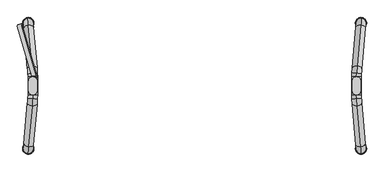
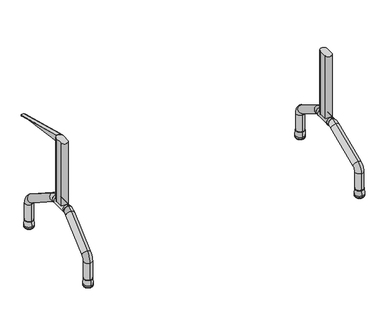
"""IFC4 building model written with IfcOpenShell, lengths in millimetres: furniture geometry, Mesa para refeitório : Mesa para refeitório 150x60cm cód 70471.4."""

from ifc_helpers import new_model, si_unit, point, frame, frame_2d, origin, place, context, project, spatial, polyline, circle_curve, ellipse_curve, trimmed, segment, composite_curve, outline, extrude, source, transform, mapped, element, save
from ifc_brep_helpers import plane_surface, cylinder_surface, revolved_surface, extruded_surface, advanced_brep


def furniture_b02cb5bb(model_context):
    return source(origin(), model_context, "Body", "SolidModel", [
        advanced_brep(
        [(-669.4401581, 37.5, 255.0), (-669.4401581, -37.5, 255.0), (-669.4401581, -37.5, 295.0), (-669.4401581, 37.5, 295.0), (-670.0583573, -51.7441422, 295.0), (-670.0583573, -51.7441422, 255.0), (-670.0583573, 51.7441422, 295.0), (-670.0583573, 51.7441422, 255.0)],
        [
            (0, 1),
            (1, 2, ellipse_curve(frame((-669.4401581, -37.5, 275.0), z_axis=(0.0, 1.0, 0.0), x_axis=(0.0, 0.0, -1.0)), 20.0, 19.923894)),
            (2, 3),
            (3, 0, ellipse_curve(frame((-669.4401581, 37.5, 275.0), z_axis=(0.0, -1.0, 0.0), x_axis=(0.0, 0.0, -1.0)), 20.0, 19.923894)),
            (2, 1, ellipse_curve(frame((-669.4401581, -37.5, 275.0), z_axis=(0.0, 1.0, 0.0), x_axis=(0.0, 0.0, -1.0)), 20.0, 19.923894)),
            (0, 3, ellipse_curve(frame((-669.4401581, 37.5, 275.0), z_axis=(0.0, -1.0, 0.0), x_axis=(0.0, 0.0, -1.0)), 20.0, 19.923894)),
            (4, 5, ellipse_curve(frame((-670.0583573, -51.7441422, 275.0), z_axis=(-0.08663729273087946, -0.9962399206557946, 0.0), x_axis=(0.0, 0.0, -1.0)), 20.0, 19.923894)),
            (5, 4, ellipse_curve(frame((-670.0583573, -51.7441422, 275.0), z_axis=(-0.08663729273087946, -0.9962399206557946, 0.0), x_axis=(0.0, 0.0, -1.0)), 20.0, 19.923894)),
            (4, 2, circle_curve(frame((-833.8513695, -37.5, 295.0), z_axis=(0.0, 0.0, 1.0), x_axis=(1.0, 0.0, 0.0)), 164.4112114)),
            (1, 5, circle_curve(frame((-833.8513695, -37.5, 255.0), z_axis=(0.0, 0.0, -1.0), x_axis=(1.0, 0.0, 0.0)), 164.4112114)),
            (6, 7, ellipse_curve(frame((-670.0583573, 51.7441422, 275.0), z_axis=(-0.08663729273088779, 0.9962399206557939, 0.0), x_axis=(0.0, 0.0, -1.0)), 20.0, 19.923894)),
            (7, 6, ellipse_curve(frame((-670.0583573, 51.7441422, 275.0), z_axis=(-0.08663729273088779, 0.9962399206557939, 0.0), x_axis=(0.0, 0.0, -1.0)), 20.0, 19.923894)),
            (3, 6, circle_curve(frame((-833.8513695, 37.5, 295.0), z_axis=(0.0, 0.0, 1.0), x_axis=(0.996239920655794, 0.08663729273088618, 0.0)), 164.4112114)),
            (7, 0, circle_curve(frame((-833.8513695, 37.5, 255.0), z_axis=(0.0, 0.0, -1.0), x_axis=(0.996239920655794, 0.08663729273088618, 0.0)), 164.4112114)),
        ],
        [
            extruded_surface(trimmed(ellipse_curve(frame((-669.4401581, 37.5, 275.0), z_axis=(0.0, -1.0, 0.0), x_axis=(0.0, 0.0, -1.0)), 20.0, 19.923894), [point((-669.4401581, 37.5, 295.0))], [point((-669.4401581, 37.5, 255.0))], True, "CARTESIAN"), (0.0, -75.0, 0.0), 75.0),
            extruded_surface(trimmed(ellipse_curve(frame((-669.4401581, 37.5, 275.0), z_axis=(0.0, -1.0, 0.0), x_axis=(0.0, 0.0, -1.0)), 20.0, 19.923894), [point((-669.4401581, 37.5, 255.0))], [point((-669.4401581, 37.5, 295.0))], True, "CARTESIAN"), (0.0, -75.0, 0.0), 75.0),
            plane_surface(frame((-670.0583573, -51.7441422, 0.0), z_axis=(-0.08663729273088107, -0.9962399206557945, 0.0), x_axis=(0.0, 0.0, 1.0))),
            revolved_surface(trimmed(ellipse_curve(frame((-669.4401581, -37.5, 275.0), z_axis=(0.0, -1.0, 0.0), x_axis=(0.0, 0.0, -1.0)), 20.0, 19.923894), [point((-669.4401581, -37.5, 295.0))], [point((-669.4401581, -37.5, 255.0))], True, "CARTESIAN"), (-833.8513695, -37.5, 0.0), (0.0, 0.0, 1.0)),
            revolved_surface(trimmed(ellipse_curve(frame((-669.4401581, -37.5, 275.0), z_axis=(0.0, -1.0, 0.0), x_axis=(0.0, 0.0, -1.0)), 20.0, 19.923894), [point((-669.4401581, -37.5, 255.0))], [point((-669.4401581, -37.5, 295.0))], True, "CARTESIAN"), (-833.8513695, -37.5, 0.0), (0.0, 0.0, 1.0)),
            plane_surface(frame((-670.0583573, 51.7441422, 0.0), z_axis=(-0.08663729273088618, 0.996239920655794, 0.0), x_axis=(0.0, 0.0, 1.0))),
            revolved_surface(trimmed(ellipse_curve(frame((-670.0583573, 51.7441422, 275.0), z_axis=(0.08663729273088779, -0.9962399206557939, 0.0), x_axis=(0.0, 0.0, -1.0)), 20.0, 19.923894), [point((-670.0583573, 51.7441422, 295.0))], [point((-670.0583573, 51.7441422, 255.0))], True, "CARTESIAN"), (-833.8513695, 37.5, 0.0), (0.0, 0.0, 1.0)),
            revolved_surface(trimmed(ellipse_curve(frame((-670.0583573, 51.7441422, 275.0), z_axis=(0.08663729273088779, -0.9962399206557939, 0.0), x_axis=(0.0, 0.0, -1.0)), 20.0, 19.923894), [point((-670.0583573, 51.7441422, 255.0))], [point((-670.0583573, 51.7441422, 295.0))], True, "CARTESIAN"), (-833.8513695, 37.5, 0.0), (0.0, 0.0, 1.0)),
        ],
        [
            (0, [[1, 2, 3, 4]]),
            (1, [[-3, 5, -1, 6]]),
            (2, [[7, 8]]),
            (3, [[-7, 9, -2, 10]]),
            (4, [[-8, -10, -5, -9]]),
            (5, [[11, 12]]),
            (6, [[-4, 13, -12, 14]]),
            (7, [[-6, -14, -11, -13]]),
        ],
    ),
        advanced_brep(
        [(-689.9590188, 279.1314153, 43.1183008), (-686.4727891, 239.2836274, 43.1183008), (-689.9590188, 279.1314153, 130.5759348), (-686.4727891, 239.2836274, 130.5759348), (-687.4872272, 250.8787073, 181.5558347), (-672.822711, 83.2625212, 285.9798998), (-670.9843424, 62.2498719, 251.9932999), (-685.6488585, 229.866058, 147.5692348), (-670.0651581, 51.7435473, 295.0), (-670.0651581, 51.7435473, 255.0)],
        [
            (0, 1, circle_curve(frame((-688.215904, 259.2075213, 43.1183008), z_axis=(0.0, 0.0, -1.0), x_axis=(0.08715574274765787, -0.9961946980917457, 0.0)), 20.0)),
            (1, 0, circle_curve(frame((-688.215904, 259.2075213, 43.1183008), z_axis=(0.0, 0.0, -1.0), x_axis=(0.08715574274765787, -0.9961946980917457, 0.0)), 20.0)),
            (0, 2),
            (2, 3, circle_curve(frame((-688.215904, 259.2075213, 130.5759348), z_axis=(0.0, 0.0, -1.0), x_axis=(0.08715574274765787, -0.9961946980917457, 0.0)), 20.0)),
            (3, 1),
            (3, 2, circle_curve(frame((-688.215904, 259.2075213, 130.5759348), z_axis=(0.0, 0.0, -1.0), x_axis=(0.08715574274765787, -0.9961946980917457, 0.0)), 20.0)),
            (4, 5),
            (5, 6, circle_curve(frame((-671.9035267, 72.7561965, 268.9865999), z_axis=(-0.07405318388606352, 0.8464317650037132, -0.5273228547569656), x_axis=(0.04595921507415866, -0.5253162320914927, -0.8496649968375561)), 20.0)),
            (6, 7),
            (7, 4, circle_curve(frame((-686.5680429, 240.3723827, 164.5625347), z_axis=(0.07405318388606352, -0.8464317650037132, 0.5273228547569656), x_axis=(0.04595921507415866, -0.5253162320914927, -0.8496649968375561)), 20.0)),
            (6, 5, circle_curve(frame((-671.9035267, 72.7561965, 268.9865999), z_axis=(-0.07405318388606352, 0.8464317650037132, -0.5273228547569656), x_axis=(0.04595921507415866, -0.5253162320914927, -0.8496649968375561)), 20.0)),
            (4, 7, circle_curve(frame((-686.5680429, 240.3723827, 164.5625347), z_axis=(0.07405318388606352, -0.8464317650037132, 0.5273228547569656), x_axis=(0.04595921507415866, -0.5253162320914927, -0.8496649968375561)), 20.0)),
            (7, 3, circle_curve(frame((-684.7296742, 219.3597334, 130.5759348), z_axis=(-0.9961946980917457, -0.08715574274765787, 0.0), x_axis=(-0.08715574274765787, 0.9961946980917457, 0.0)), 20.0)),
            (2, 4, circle_curve(frame((-684.7296742, 219.3597334, 130.5759348), z_axis=(0.9961946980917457, 0.08715574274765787, 0.0), x_axis=(-0.08715574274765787, 0.9961946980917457, 0.0)), 60.0)),
            (8, 9, circle_curve(frame((-670.0651581, 51.7435473, 275.0), z_axis=(0.08715574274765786, -0.9961946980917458, 0.0), x_axis=(0.0, 0.0, -1.0)), 20.0)),
            (9, 8, circle_curve(frame((-670.0651581, 51.7435473, 275.0), z_axis=(0.08715574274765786, -0.9961946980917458, 0.0), x_axis=(0.0, 0.0, -1.0)), 20.0)),
            (9, 6, circle_curve(frame((-670.0651581, 51.7435473, 235.0), z_axis=(-0.9961946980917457, -0.08715574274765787, 0.0), x_axis=(-0.045959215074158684, 0.5253162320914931, 0.8496649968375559)), 20.0)),
            (5, 8, circle_curve(frame((-670.0651581, 51.7435473, 235.0), z_axis=(0.9961946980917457, 0.08715574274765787, 0.0), x_axis=(-0.045959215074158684, 0.5253162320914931, 0.8496649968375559)), 60.0)),
        ],
        [
            plane_surface(frame((-0.8415623, 319.3449838, 43.1183008), z_axis=(0.0, 0.0, -1.0000000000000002), x_axis=(-0.9961946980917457, -0.08715574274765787, 0.0))),
            cylinder_surface(frame((-688.215904, 259.2075213, 43.1183008), z_axis=(0.0, 0.0, -1.0000000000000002), x_axis=(0.08715574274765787, -0.9961946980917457, 0.0)), 20.0),
            cylinder_surface(frame((-686.5680429, 240.3723827, 164.5625347), z_axis=(-0.07405318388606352, 0.8464317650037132, -0.5273228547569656), x_axis=(0.04595921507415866, -0.5253162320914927, -0.8496649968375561)), 20.0),
            revolved_surface(trimmed(ellipse_curve(frame((-688.215904, 259.2075213, 130.5759348), z_axis=(0.0, 0.0, 1.0000000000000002), x_axis=(0.08715574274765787, -0.9961946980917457, 0.0)), 20.0, 20.0), [point((-686.4727891, 239.2836274, 130.5759348))], [point((-689.9590188, 279.1314153, 130.5759348))], True, "CARTESIAN"), (2.6446674, 279.4971959, 130.5759348), (-0.9961946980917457, -0.08715574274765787, 0.0)),
            revolved_surface(trimmed(ellipse_curve(frame((-688.215904, 259.2075213, 130.5759348), z_axis=(0.0, 0.0, 1.0000000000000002), x_axis=(0.08715574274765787, -0.9961946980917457, 0.0)), 20.0, 20.0), [point((-689.9590188, 279.1314153, 130.5759348))], [point((-686.4727891, 239.2836274, 130.5759348))], True, "CARTESIAN"), (2.6446674, 279.4971959, 130.5759348), (-0.9961946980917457, -0.08715574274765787, 0.0)),
            plane_surface(frame((17.3091835, 111.8810098, 275.0), z_axis=(0.08715574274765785, -0.9961946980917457, 0.0), x_axis=(-0.9961946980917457, -0.08715574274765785, 0.0))),
            revolved_surface(trimmed(ellipse_curve(frame((-671.9035267, 72.7561965, 268.9865999), z_axis=(0.07405318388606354, -0.8464317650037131, 0.527322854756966), x_axis=(0.045959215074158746, -0.5253162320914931, -0.8496649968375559)), 20.0, 20.0), [point((-670.9843424, 62.2498719, 251.9932999))], [point((-672.822711, 83.2625212, 285.9798998))], True, "CARTESIAN"), (17.3091835, 111.8810098, 235.0), (-0.9961946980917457, -0.08715574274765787, 0.0)),
            revolved_surface(trimmed(ellipse_curve(frame((-671.9035267, 72.7561965, 268.9865999), z_axis=(0.07405318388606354, -0.8464317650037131, 0.527322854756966), x_axis=(0.045959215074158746, -0.5253162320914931, -0.8496649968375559)), 20.0, 20.0), [point((-672.822711, 83.2625212, 285.9798998))], [point((-670.9843424, 62.2498719, 251.9932999))], True, "CARTESIAN"), (17.3091835, 111.8810098, 235.0), (-0.9961946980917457, -0.08715574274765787, 0.0)),
        ],
        [
            (0, [[1, 2]]),
            (1, [[3, 4, 5, -1]]),
            (1, [[-5, 6, -3, -2]]),
            (2, [[7, 8, 9, 10]]),
            (2, [[-9, 11, -7, 12]]),
            (3, [[-10, 13, -4, 14]]),
            (4, [[-12, -14, -6, -13]]),
            (5, [[15, 16]]),
            (6, [[-16, 17, -8, 18]]),
            (7, [[-15, -18, -11, -17]]),
        ],
    ),
        advanced_brep(
        [(-686.4727891, -239.2836274, 43.1183008), (-689.9590188, -279.1314153, 43.1183008), (-689.9590188, -279.1314153, 130.5759348), (-686.4727891, -239.2836274, 130.5759348), (-687.4872272, -250.8787073, 181.5558347), (-672.822711, -83.2625212, 285.9798998), (-670.9843424, -62.2498719, 251.9932999), (-685.6488585, -229.866058, 147.5692348), (-670.0651581, -51.7435473, 255.0), (-670.0651581, -51.7435473, 295.0)],
        [
            (0, 1, circle_curve(frame((-688.215904, -259.2075213, 43.1183008), z_axis=(0.0, 0.0, -1.0), x_axis=(-0.08715574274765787, -0.9961946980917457, 0.0)), 20.0)),
            (1, 0, circle_curve(frame((-688.215904, -259.2075213, 43.1183008), z_axis=(0.0, 0.0, -1.0), x_axis=(-0.08715574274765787, -0.9961946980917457, 0.0)), 20.0)),
            (1, 2),
            (2, 3, circle_curve(frame((-688.215904, -259.2075213, 130.5759348), z_axis=(0.0, 0.0, -1.0), x_axis=(-0.08715574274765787, -0.9961946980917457, 0.0)), 20.0)),
            (3, 0),
            (3, 2, circle_curve(frame((-688.215904, -259.2075213, 130.5759348), z_axis=(0.0, 0.0, -1.0), x_axis=(-0.08715574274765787, -0.9961946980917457, 0.0)), 20.0)),
            (4, 5),
            (5, 6, circle_curve(frame((-671.9035267, -72.7561965, 268.9865999), z_axis=(-0.07405318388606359, -0.8464317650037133, -0.5273228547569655), x_axis=(-0.04595921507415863, -0.5253162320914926, 0.8496649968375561)), 20.0)),
            (6, 7),
            (7, 4, circle_curve(frame((-686.5680429, -240.3723827, 164.5625347), z_axis=(0.07405318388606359, 0.8464317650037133, 0.5273228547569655), x_axis=(-0.04595921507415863, -0.5253162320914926, 0.8496649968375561)), 20.0)),
            (6, 5, circle_curve(frame((-671.9035267, -72.7561965, 268.9865999), z_axis=(-0.07405318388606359, -0.8464317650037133, -0.5273228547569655), x_axis=(-0.04595921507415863, -0.5253162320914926, 0.8496649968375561)), 20.0)),
            (4, 7, circle_curve(frame((-686.5680429, -240.3723827, 164.5625347), z_axis=(0.07405318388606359, 0.8464317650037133, 0.5273228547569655), x_axis=(-0.04595921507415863, -0.5253162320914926, 0.8496649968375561)), 20.0)),
            (7, 3, circle_curve(frame((-684.7296742, -219.3597334, 130.5759348), z_axis=(0.9961946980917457, -0.08715574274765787, 0.0), x_axis=(-0.08715574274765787, -0.9961946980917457, 0.0)), 20.0)),
            (2, 4, circle_curve(frame((-684.7296742, -219.3597334, 130.5759348), z_axis=(-0.9961946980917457, 0.08715574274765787, 0.0), x_axis=(-0.08715574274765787, -0.9961946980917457, 0.0)), 60.0)),
            (8, 9, circle_curve(frame((-670.0651581, -51.7435473, 275.0), z_axis=(0.08715574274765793, 0.9961946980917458, 0.0), x_axis=(0.0, 0.0, 1.0)), 20.0)),
            (9, 8, circle_curve(frame((-670.0651581, -51.7435473, 275.0), z_axis=(0.08715574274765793, 0.9961946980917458, 0.0), x_axis=(0.0, 0.0, 1.0)), 20.0)),
            (8, 6, circle_curve(frame((-670.0651581, -51.7435473, 235.0), z_axis=(0.9961946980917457, -0.08715574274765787, 0.0), x_axis=(-0.045959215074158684, -0.5253162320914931, 0.8496649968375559)), 20.0)),
            (5, 9, circle_curve(frame((-670.0651581, -51.7435473, 235.0), z_axis=(-0.9961946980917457, 0.08715574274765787, 0.0), x_axis=(-0.045959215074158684, -0.5253162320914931, 0.8496649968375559)), 60.0)),
        ],
        [
            plane_surface(frame((-0.8415623, -319.3449838, 43.1183008), z_axis=(0.0, 0.0, -1.0000000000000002), x_axis=(-0.9961946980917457, 0.08715574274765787, 0.0))),
            cylinder_surface(frame((-688.215904, -259.2075213, 43.1183008), z_axis=(0.0, 0.0, -1.0000000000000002), x_axis=(-0.08715574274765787, -0.9961946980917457, 0.0)), 20.0),
            cylinder_surface(frame((-686.5680429, -240.3723827, 164.5625347), z_axis=(-0.07405318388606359, -0.8464317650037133, -0.5273228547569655), x_axis=(-0.04595921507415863, -0.5253162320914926, 0.8496649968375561)), 20.0),
            revolved_surface(trimmed(ellipse_curve(frame((-688.215904, -259.2075213, 130.5759348), z_axis=(0.0, 0.0, 1.0000000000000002), x_axis=(-0.08715574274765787, -0.9961946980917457, 0.0)), 20.0, 20.0), [point((-686.4727891, -239.2836274, 130.5759348))], [point((-689.9590188, -279.1314153, 130.5759348))], True, "CARTESIAN"), (2.6446674, -279.4971959, 130.5759348), (0.9961946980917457, -0.08715574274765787, 0.0)),
            revolved_surface(trimmed(ellipse_curve(frame((-688.215904, -259.2075213, 130.5759348), z_axis=(0.0, 0.0, 1.0000000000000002), x_axis=(-0.08715574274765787, -0.9961946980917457, 0.0)), 20.0, 20.0), [point((-689.9590188, -279.1314153, 130.5759348))], [point((-686.4727891, -239.2836274, 130.5759348))], True, "CARTESIAN"), (2.6446674, -279.4971959, 130.5759348), (0.9961946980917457, -0.08715574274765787, 0.0)),
            plane_surface(frame((17.3091835, -111.8810098, 275.0), z_axis=(0.0871557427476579, 0.9961946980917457, 0.0), x_axis=(-0.9961946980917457, 0.0871557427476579, 0.0))),
            revolved_surface(trimmed(ellipse_curve(frame((-671.9035267, -72.7561965, 268.9865999), z_axis=(0.0740531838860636, 0.8464317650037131, 0.527322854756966), x_axis=(-0.04595921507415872, -0.5253162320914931, 0.8496649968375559)), 20.0, 20.0), [point((-670.9843424, -62.2498719, 251.9932999))], [point((-672.822711, -83.2625212, 285.9798998))], True, "CARTESIAN"), (17.3091835, -111.8810098, 235.0), (0.9961946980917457, -0.08715574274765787, 0.0)),
            revolved_surface(trimmed(ellipse_curve(frame((-671.9035267, -72.7561965, 268.9865999), z_axis=(0.0740531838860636, 0.8464317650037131, 0.527322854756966), x_axis=(-0.04595921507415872, -0.5253162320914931, 0.8496649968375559)), 20.0, 20.0), [point((-672.822711, -83.2625212, 285.9798998))], [point((-670.9843424, -62.2498719, 251.9932999))], True, "CARTESIAN"), (17.3091835, -111.8810098, 235.0), (0.9961946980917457, -0.08715574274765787, 0.0)),
        ],
        [
            (0, [[1, 2]]),
            (1, [[3, 4, 5, -2]]),
            (1, [[-5, 6, -3, -1]]),
            (2, [[7, 8, 9, 10]]),
            (2, [[-9, 11, -7, 12]]),
            (3, [[-10, 13, -4, 14]]),
            (4, [[-12, -14, -6, -13]]),
            (5, [[15, 16]]),
            (6, [[-15, 17, -8, 18]]),
            (7, [[-16, -18, -11, -17]]),
        ],
    ),
        extrude(outline(composite_curve([segment(polyline([(-687.5814475, -19.3376613), (-687.5814475, 19.4032698)]), True, "CONTINUOUS"), segment(trimmed(circle_curve(frame_2d((-669.5814475, 19.4032698)), 18.0), [point((-687.5814475, 19.4032698))], [point((-651.5814475, 19.4032698))], False, "CARTESIAN"), True, "CONTINUOUS"), segment(polyline([(-651.5814475, 19.4032698), (-651.5814475, -19.3376613)]), True, "CONTINUOUS"), segment(trimmed(circle_curve(frame_2d((-669.5814475, -19.3376613)), 18.0), [point((-651.5814475, -19.3376613))], [point((-687.5814475, -19.3376613))], False, "CARTESIAN"), True, "CONTINUOUS")], self_intersect=False)), frame((0.0, 0.0, 275.0), z_axis=(0.0, 0.0, 1.0), x_axis=(1.0, 0.0, 0.0)), (0.0, 0.0, 1.0), 347.0),
        advanced_brep(
        [(669.4401581, 37.5, 255.0), (669.4401581, 37.5, 295.0), (669.4401581, -37.5, 295.0), (669.4401581, -37.5, 255.0), (670.0583573, -51.7441422, 295.0), (670.0583573, -51.7441422, 255.0), (670.0583573, 51.7441422, 295.0), (670.0583573, 51.7441422, 255.0)],
        [
            (0, 1, ellipse_curve(frame((669.4401581, 37.5, 275.0), z_axis=(0.0, -1.0, 0.0), x_axis=(0.0, 0.0, -1.0)), 20.0, 19.923894)),
            (1, 2),
            (2, 3, ellipse_curve(frame((669.4401581, -37.5, 275.0), z_axis=(0.0, 1.0, 0.0), x_axis=(0.0, 0.0, -1.0)), 20.0, 19.923894)),
            (3, 0),
            (1, 0, ellipse_curve(frame((669.4401581, 37.5, 275.0), z_axis=(0.0, -1.0, 0.0), x_axis=(0.0, 0.0, -1.0)), 20.0, 19.923894)),
            (3, 2, ellipse_curve(frame((669.4401581, -37.5, 275.0), z_axis=(0.0, 1.0, 0.0), x_axis=(0.0, 0.0, -1.0)), 20.0, 19.923894)),
            (4, 5, ellipse_curve(frame((670.0583573, -51.7441422, 275.0), z_axis=(0.08663729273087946, -0.9962399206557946, 0.0), x_axis=(0.0, 0.0, -1.0)), 20.0, 19.923894)),
            (5, 4, ellipse_curve(frame((670.0583573, -51.7441422, 275.0), z_axis=(0.08663729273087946, -0.9962399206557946, 0.0), x_axis=(0.0, 0.0, -1.0)), 20.0, 19.923894)),
            (5, 3, circle_curve(frame((833.8513695, -37.5, 255.0), z_axis=(0.0, 0.0, -1.0), x_axis=(-1.0, 0.0, 0.0)), 164.4112114)),
            (2, 4, circle_curve(frame((833.8513695, -37.5, 295.0), z_axis=(0.0, 0.0, 1.0), x_axis=(-1.0, 0.0, 0.0)), 164.4112114)),
            (6, 7, ellipse_curve(frame((670.0583573, 51.7441422, 275.0), z_axis=(0.08663729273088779, 0.9962399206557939, 0.0), x_axis=(0.0, 0.0, -1.0)), 20.0, 19.923894)),
            (7, 6, ellipse_curve(frame((670.0583573, 51.7441422, 275.0), z_axis=(0.08663729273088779, 0.9962399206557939, 0.0), x_axis=(0.0, 0.0, -1.0)), 20.0, 19.923894)),
            (0, 7, circle_curve(frame((833.8513695, 37.5, 255.0), z_axis=(0.0, 0.0, -1.0), x_axis=(-0.996239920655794, 0.08663729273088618, 0.0)), 164.4112114)),
            (6, 1, circle_curve(frame((833.8513695, 37.5, 295.0), z_axis=(0.0, 0.0, 1.0), x_axis=(-0.996239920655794, 0.08663729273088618, 0.0)), 164.4112114)),
        ],
        [
            extruded_surface(trimmed(ellipse_curve(frame((669.4401581, -37.5, 275.0), z_axis=(0.0, 1.0, 0.0), x_axis=(0.0, 0.0, -1.0)), 20.0, 19.923894), [point((669.4401581, -37.5, 295.0))], [point((669.4401581, -37.5, 255.0))], True, "CARTESIAN"), (0.0, 75.0, 0.0), 75.0),
            extruded_surface(trimmed(ellipse_curve(frame((669.4401581, -37.5, 275.0), z_axis=(0.0, 1.0, 0.0), x_axis=(0.0, 0.0, -1.0)), 20.0, 19.923894), [point((669.4401581, -37.5, 255.0))], [point((669.4401581, -37.5, 295.0))], True, "CARTESIAN"), (0.0, 75.0, 0.0), 75.0),
            plane_surface(frame((670.0583573, -51.7441422, 0.0), z_axis=(0.08663729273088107, -0.9962399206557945, 0.0), x_axis=(0.0, 0.0, 1.0))),
            revolved_surface(trimmed(ellipse_curve(frame((669.4401581, -37.5, 275.0), z_axis=(0.0, 1.0, 0.0), x_axis=(0.0, 0.0, -1.0)), 20.0, 19.923894), [point((669.4401581, -37.5, 295.0))], [point((669.4401581, -37.5, 255.0))], True, "CARTESIAN"), (833.8513695, -37.5, 0.0), (0.0, 0.0, 1.0)),
            revolved_surface(trimmed(ellipse_curve(frame((669.4401581, -37.5, 275.0), z_axis=(0.0, 1.0, 0.0), x_axis=(0.0, 0.0, -1.0)), 20.0, 19.923894), [point((669.4401581, -37.5, 255.0))], [point((669.4401581, -37.5, 295.0))], True, "CARTESIAN"), (833.8513695, -37.5, 0.0), (0.0, 0.0, 1.0)),
            plane_surface(frame((670.0583573, 51.7441422, 0.0), z_axis=(0.08663729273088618, 0.996239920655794, 0.0), x_axis=(0.0, 0.0, 1.0))),
            revolved_surface(trimmed(ellipse_curve(frame((670.0583573, 51.7441422, 275.0), z_axis=(0.08663729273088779, 0.9962399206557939, 0.0), x_axis=(0.0, 0.0, -1.0)), 20.0, 19.923894), [point((670.0583573, 51.7441422, 295.0))], [point((670.0583573, 51.7441422, 255.0))], True, "CARTESIAN"), (833.8513695, 37.5, 0.0), (0.0, 0.0, 1.0)),
            revolved_surface(trimmed(ellipse_curve(frame((670.0583573, 51.7441422, 275.0), z_axis=(0.08663729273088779, 0.9962399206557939, 0.0), x_axis=(0.0, 0.0, -1.0)), 20.0, 19.923894), [point((670.0583573, 51.7441422, 255.0))], [point((670.0583573, 51.7441422, 295.0))], True, "CARTESIAN"), (833.8513695, 37.5, 0.0), (0.0, 0.0, 1.0)),
        ],
        [
            (0, [[1, 2, 3, 4]]),
            (1, [[5, -4, 6, -2]]),
            (2, [[7, 8]]),
            (3, [[9, -3, 10, -8]]),
            (4, [[-10, -6, -9, -7]]),
            (5, [[11, 12]]),
            (6, [[13, -11, 14, -1]]),
            (7, [[-14, -12, -13, -5]]),
        ],
    ),
        advanced_brep(
        [(689.9590188, 279.1314153, 43.1183008), (686.4727891, 239.2836274, 43.1183008), (686.4727891, 239.2836274, 130.5759348), (689.9590188, 279.1314153, 130.5759348), (687.4872272, 250.8787073, 181.5558347), (685.6488585, 229.866058, 147.5692348), (670.9843424, 62.2498719, 251.9932999), (672.822711, 83.2625212, 285.9798998), (670.0651581, 51.7435473, 295.0), (670.0651581, 51.7435473, 255.0)],
        [
            (0, 1, circle_curve(frame((688.215904, 259.2075213, 43.1183008), z_axis=(0.0, 0.0, -1.0), x_axis=(-0.08715574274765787, -0.9961946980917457, 0.0)), 20.0)),
            (1, 0, circle_curve(frame((688.215904, 259.2075213, 43.1183008), z_axis=(0.0, 0.0, -1.0), x_axis=(-0.08715574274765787, -0.9961946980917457, 0.0)), 20.0)),
            (1, 2),
            (2, 3, circle_curve(frame((688.215904, 259.2075213, 130.5759348), z_axis=(0.0, 0.0, -1.0), x_axis=(-0.08715574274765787, -0.9961946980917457, 0.0)), 20.0)),
            (3, 0),
            (3, 2, circle_curve(frame((688.215904, 259.2075213, 130.5759348), z_axis=(0.0, 0.0, -1.0), x_axis=(-0.08715574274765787, -0.9961946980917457, 0.0)), 20.0)),
            (4, 5, circle_curve(frame((686.5680429, 240.3723827, 164.5625347), z_axis=(-0.07405318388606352, -0.8464317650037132, 0.5273228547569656), x_axis=(-0.04595921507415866, -0.5253162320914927, -0.8496649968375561)), 20.0)),
            (5, 6),
            (6, 7, circle_curve(frame((671.9035267, 72.7561965, 268.9865999), z_axis=(0.07405318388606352, 0.8464317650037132, -0.5273228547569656), x_axis=(-0.04595921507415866, -0.5253162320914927, -0.8496649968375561)), 20.0)),
            (7, 4),
            (5, 4, circle_curve(frame((686.5680429, 240.3723827, 164.5625347), z_axis=(-0.07405318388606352, -0.8464317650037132, 0.5273228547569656), x_axis=(-0.04595921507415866, -0.5253162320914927, -0.8496649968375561)), 20.0)),
            (7, 6, circle_curve(frame((671.9035267, 72.7561965, 268.9865999), z_axis=(0.07405318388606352, 0.8464317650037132, -0.5273228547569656), x_axis=(-0.04595921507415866, -0.5253162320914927, -0.8496649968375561)), 20.0)),
            (4, 3, circle_curve(frame((684.7296742, 219.3597334, 130.5759348), z_axis=(-0.9961946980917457, 0.08715574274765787, 0.0), x_axis=(0.08715574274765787, 0.9961946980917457, 0.0)), 60.0)),
            (2, 5, circle_curve(frame((684.7296742, 219.3597334, 130.5759348), z_axis=(0.9961946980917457, -0.08715574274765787, 0.0), x_axis=(0.08715574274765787, 0.9961946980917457, 0.0)), 20.0)),
            (8, 9, circle_curve(frame((670.0651581, 51.7435473, 275.0), z_axis=(-0.08715574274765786, -0.9961946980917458, 0.0), x_axis=(0.0, 0.0, -1.0)), 20.0)),
            (9, 8, circle_curve(frame((670.0651581, 51.7435473, 275.0), z_axis=(-0.08715574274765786, -0.9961946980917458, 0.0), x_axis=(0.0, 0.0, -1.0)), 20.0)),
            (8, 7, circle_curve(frame((670.0651581, 51.7435473, 235.0), z_axis=(-0.9961946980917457, 0.08715574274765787, 0.0), x_axis=(0.045959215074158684, 0.5253162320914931, 0.8496649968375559)), 60.0)),
            (6, 9, circle_curve(frame((670.0651581, 51.7435473, 235.0), z_axis=(0.9961946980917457, -0.08715574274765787, 0.0), x_axis=(0.045959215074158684, 0.5253162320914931, 0.8496649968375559)), 20.0)),
        ],
        [
            plane_surface(frame((0.8415623, 319.3449838, 43.1183008), z_axis=(0.0, 0.0, -1.0000000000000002), x_axis=(0.9961946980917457, -0.08715574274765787, 0.0))),
            cylinder_surface(frame((688.215904, 259.2075213, 43.1183008), z_axis=(0.0, 0.0, -1.0000000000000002), x_axis=(-0.08715574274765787, -0.9961946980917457, 0.0)), 20.0),
            cylinder_surface(frame((686.5680429, 240.3723827, 164.5625347), z_axis=(0.07405318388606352, 0.8464317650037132, -0.5273228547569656), x_axis=(-0.04595921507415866, -0.5253162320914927, -0.8496649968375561)), 20.0),
            revolved_surface(trimmed(ellipse_curve(frame((688.215904, 259.2075213, 130.5759348), z_axis=(0.0, 0.0, -1.0000000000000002), x_axis=(-0.08715574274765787, -0.9961946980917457, 0.0)), 20.0, 20.0), [point((686.4727891, 239.2836274, 130.5759348))], [point((689.9590188, 279.1314153, 130.5759348))], True, "CARTESIAN"), (-2.6446674, 279.4971959, 130.5759348), (0.9961946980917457, -0.08715574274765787, 0.0)),
            revolved_surface(trimmed(ellipse_curve(frame((688.215904, 259.2075213, 130.5759348), z_axis=(0.0, 0.0, -1.0000000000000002), x_axis=(-0.08715574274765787, -0.9961946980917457, 0.0)), 20.0, 20.0), [point((689.9590188, 279.1314153, 130.5759348))], [point((686.4727891, 239.2836274, 130.5759348))], True, "CARTESIAN"), (-2.6446674, 279.4971959, 130.5759348), (0.9961946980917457, -0.08715574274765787, 0.0)),
            plane_surface(frame((-17.3091835, 111.8810098, 275.0), z_axis=(-0.08715574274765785, -0.9961946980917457, 0.0), x_axis=(0.9961946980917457, -0.08715574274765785, 0.0))),
            revolved_surface(trimmed(ellipse_curve(frame((671.9035267, 72.7561965, 268.9865999), z_axis=(0.07405318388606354, 0.8464317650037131, -0.527322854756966), x_axis=(-0.045959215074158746, -0.5253162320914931, -0.8496649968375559)), 20.0, 20.0), [point((670.9843424, 62.2498719, 251.9932999))], [point((672.822711, 83.2625212, 285.9798998))], True, "CARTESIAN"), (-17.3091835, 111.8810098, 235.0), (0.9961946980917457, -0.08715574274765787, 0.0)),
            revolved_surface(trimmed(ellipse_curve(frame((671.9035267, 72.7561965, 268.9865999), z_axis=(0.07405318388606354, 0.8464317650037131, -0.527322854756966), x_axis=(-0.045959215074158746, -0.5253162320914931, -0.8496649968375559)), 20.0, 20.0), [point((672.822711, 83.2625212, 285.9798998))], [point((670.9843424, 62.2498719, 251.9932999))], True, "CARTESIAN"), (-17.3091835, 111.8810098, 235.0), (0.9961946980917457, -0.08715574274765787, 0.0)),
        ],
        [
            (0, [[1, 2]]),
            (1, [[-2, 3, 4, 5]]),
            (1, [[-1, -5, 6, -3]]),
            (2, [[7, 8, 9, 10]]),
            (2, [[11, -10, 12, -8]]),
            (3, [[13, -4, 14, -7]]),
            (4, [[-14, -6, -13, -11]]),
            (5, [[15, 16]]),
            (6, [[17, -9, 18, -15]]),
            (7, [[-18, -12, -17, -16]]),
        ],
    ),
        advanced_brep(
        [(686.4727891, -239.2836274, 43.1183008), (689.9590188, -279.1314153, 43.1183008), (686.4727891, -239.2836274, 130.5759348), (689.9590188, -279.1314153, 130.5759348), (687.4872272, -250.8787073, 181.5558347), (685.6488585, -229.866058, 147.5692348), (670.9843424, -62.2498719, 251.9932999), (672.822711, -83.2625212, 285.9798998), (670.0651581, -51.7435473, 255.0), (670.0651581, -51.7435473, 295.0)],
        [
            (0, 1, circle_curve(frame((688.215904, -259.2075213, 43.1183008), z_axis=(0.0, 0.0, -1.0), x_axis=(0.08715574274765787, -0.9961946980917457, 0.0)), 20.0)),
            (1, 0, circle_curve(frame((688.215904, -259.2075213, 43.1183008), z_axis=(0.0, 0.0, -1.0), x_axis=(0.08715574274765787, -0.9961946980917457, 0.0)), 20.0)),
            (0, 2),
            (2, 3, circle_curve(frame((688.215904, -259.2075213, 130.5759348), z_axis=(0.0, 0.0, -1.0), x_axis=(0.08715574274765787, -0.9961946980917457, 0.0)), 20.0)),
            (3, 1),
            (3, 2, circle_curve(frame((688.215904, -259.2075213, 130.5759348), z_axis=(0.0, 0.0, -1.0), x_axis=(0.08715574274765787, -0.9961946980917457, 0.0)), 20.0)),
            (4, 5, circle_curve(frame((686.5680429, -240.3723827, 164.5625347), z_axis=(-0.07405318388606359, 0.8464317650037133, 0.5273228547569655), x_axis=(0.04595921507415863, -0.5253162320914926, 0.8496649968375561)), 20.0)),
            (5, 6),
            (6, 7, circle_curve(frame((671.9035267, -72.7561965, 268.9865999), z_axis=(0.07405318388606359, -0.8464317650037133, -0.5273228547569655), x_axis=(0.04595921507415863, -0.5253162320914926, 0.8496649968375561)), 20.0)),
            (7, 4),
            (5, 4, circle_curve(frame((686.5680429, -240.3723827, 164.5625347), z_axis=(-0.07405318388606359, 0.8464317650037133, 0.5273228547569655), x_axis=(0.04595921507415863, -0.5253162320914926, 0.8496649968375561)), 20.0)),
            (7, 6, circle_curve(frame((671.9035267, -72.7561965, 268.9865999), z_axis=(0.07405318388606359, -0.8464317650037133, -0.5273228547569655), x_axis=(0.04595921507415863, -0.5253162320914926, 0.8496649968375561)), 20.0)),
            (4, 3, circle_curve(frame((684.7296742, -219.3597334, 130.5759348), z_axis=(0.9961946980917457, 0.08715574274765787, 0.0), x_axis=(0.08715574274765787, -0.9961946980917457, 0.0)), 60.0)),
            (2, 5, circle_curve(frame((684.7296742, -219.3597334, 130.5759348), z_axis=(-0.9961946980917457, -0.08715574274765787, 0.0), x_axis=(0.08715574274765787, -0.9961946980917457, 0.0)), 20.0)),
            (8, 9, circle_curve(frame((670.0651581, -51.7435473, 275.0), z_axis=(-0.08715574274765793, 0.9961946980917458, 0.0), x_axis=(0.0, 0.0, 1.0)), 20.0)),
            (9, 8, circle_curve(frame((670.0651581, -51.7435473, 275.0), z_axis=(-0.08715574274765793, 0.9961946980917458, 0.0), x_axis=(0.0, 0.0, 1.0)), 20.0)),
            (9, 7, circle_curve(frame((670.0651581, -51.7435473, 235.0), z_axis=(0.9961946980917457, 0.08715574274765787, 0.0), x_axis=(0.045959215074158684, -0.5253162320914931, 0.8496649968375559)), 60.0)),
            (6, 8, circle_curve(frame((670.0651581, -51.7435473, 235.0), z_axis=(-0.9961946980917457, -0.08715574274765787, 0.0), x_axis=(0.045959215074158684, -0.5253162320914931, 0.8496649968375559)), 20.0)),
        ],
        [
            plane_surface(frame((0.8415623, -319.3449838, 43.1183008), z_axis=(0.0, 0.0, -1.0000000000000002), x_axis=(0.9961946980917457, 0.08715574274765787, 0.0))),
            cylinder_surface(frame((688.215904, -259.2075213, 43.1183008), z_axis=(0.0, 0.0, -1.0000000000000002), x_axis=(0.08715574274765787, -0.9961946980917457, 0.0)), 20.0),
            cylinder_surface(frame((686.5680429, -240.3723827, 164.5625347), z_axis=(0.07405318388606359, -0.8464317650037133, -0.5273228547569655), x_axis=(0.04595921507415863, -0.5253162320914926, 0.8496649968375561)), 20.0),
            revolved_surface(trimmed(ellipse_curve(frame((688.215904, -259.2075213, 130.5759348), z_axis=(0.0, 0.0, -1.0000000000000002), x_axis=(0.08715574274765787, -0.9961946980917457, 0.0)), 20.0, 20.0), [point((686.4727891, -239.2836274, 130.5759348))], [point((689.9590188, -279.1314153, 130.5759348))], True, "CARTESIAN"), (-2.6446674, -279.4971959, 130.5759348), (-0.9961946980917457, -0.08715574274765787, 0.0)),
            revolved_surface(trimmed(ellipse_curve(frame((688.215904, -259.2075213, 130.5759348), z_axis=(0.0, 0.0, -1.0000000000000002), x_axis=(0.08715574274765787, -0.9961946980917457, 0.0)), 20.0, 20.0), [point((689.9590188, -279.1314153, 130.5759348))], [point((686.4727891, -239.2836274, 130.5759348))], True, "CARTESIAN"), (-2.6446674, -279.4971959, 130.5759348), (-0.9961946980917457, -0.08715574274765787, 0.0)),
            plane_surface(frame((-17.3091835, -111.8810098, 275.0), z_axis=(-0.0871557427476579, 0.9961946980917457, 0.0), x_axis=(0.9961946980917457, 0.0871557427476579, 0.0))),
            revolved_surface(trimmed(ellipse_curve(frame((671.9035267, -72.7561965, 268.9865999), z_axis=(0.0740531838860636, -0.8464317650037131, -0.527322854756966), x_axis=(0.04595921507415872, -0.5253162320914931, 0.8496649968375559)), 20.0, 20.0), [point((670.9843424, -62.2498719, 251.9932999))], [point((672.822711, -83.2625212, 285.9798998))], True, "CARTESIAN"), (-17.3091835, -111.8810098, 235.0), (-0.9961946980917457, -0.08715574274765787, 0.0)),
            revolved_surface(trimmed(ellipse_curve(frame((671.9035267, -72.7561965, 268.9865999), z_axis=(0.0740531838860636, -0.8464317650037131, -0.527322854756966), x_axis=(0.04595921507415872, -0.5253162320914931, 0.8496649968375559)), 20.0, 20.0), [point((672.822711, -83.2625212, 285.9798998))], [point((670.9843424, -62.2498719, 251.9932999))], True, "CARTESIAN"), (-17.3091835, -111.8810098, 235.0), (-0.9961946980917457, -0.08715574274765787, 0.0)),
        ],
        [
            (0, [[1, 2]]),
            (1, [[-1, 3, 4, 5]]),
            (1, [[-2, -5, 6, -3]]),
            (2, [[7, 8, 9, 10]]),
            (2, [[11, -10, 12, -8]]),
            (3, [[13, -4, 14, -7]]),
            (4, [[-14, -6, -13, -11]]),
            (5, [[15, 16]]),
            (6, [[17, -9, 18, -16]]),
            (7, [[-18, -12, -17, -15]]),
        ],
    ),
        extrude(outline(composite_curve([segment(trimmed(circle_curve(frame_2d((669.5814475, -19.3376613)), 18.0), [point((687.5814475, -19.3376613))], [point((651.5814475, -19.3376613))], False, "CARTESIAN"), True, "CONTINUOUS"), segment(polyline([(651.5814475, -19.3376613), (651.5814475, 19.4032698)]), True, "CONTINUOUS"), segment(trimmed(circle_curve(frame_2d((669.5814475, 19.4032698)), 18.0), [point((651.5814475, 19.4032698))], [point((687.5814475, 19.4032698))], False, "CARTESIAN"), True, "CONTINUOUS"), segment(polyline([(687.5814475, 19.4032698), (687.5814475, -19.3376613)]), True, "CONTINUOUS")], self_intersect=False)), frame((0.0, 0.0, 275.0), z_axis=(0.0, 0.0, 1.0), x_axis=(1.0, 0.0, 0.0)), (0.0, 0.0, 1.0), 347.0),
        advanced_brep(
        [(-688.215904, 280.5839249, 42.9792915), (-688.215904, 281.212521, 42.3931162), (-688.215904, 238.787479, 42.3931162), (-688.215904, 239.4160751, 42.9792915), (-688.215904, 283.125, 15.0433923), (-688.215904, 236.875, 15.0433923), (-688.215904, 283.125, 7.2213749), (-688.215904, 236.875, 7.2213749), (-688.215904, 276.0093092, 0.1056841), (-688.215904, 243.9906908, 0.1056841), (-688.215904, 260.0, 0.1056841), (-688.215904, 260.0, 42.9792915)],
        [
            (0, 1, circle_curve(frame((-688.215904, 280.5839249, 42.3491605), z_axis=(-1.0, 0.0, 0.0), x_axis=(0.0, -1.0, 0.0)), 0.630131)),
            (1, 2, circle_curve(frame((-688.215904, 260.0, 42.3931162), z_axis=(0.0, 0.0, 1.0), x_axis=(0.0, -1.0, 0.0)), 21.212521)),
            (2, 3, circle_curve(frame((-688.215904, 239.4160751, 42.3491605), z_axis=(-1.0, 0.0, 0.0), x_axis=(0.0, 1.0, 0.0)), 0.630131)),
            (3, 0, circle_curve(frame((-688.215904, 260.0, 42.9792915), z_axis=(0.0, 0.0, -1.0), x_axis=(0.0, -1.0, 0.0)), 20.5839249)),
            (2, 1, circle_curve(frame((-688.215904, 260.0, 42.3931162), z_axis=(0.0, 0.0, 1.0), x_axis=(0.0, -1.0, 0.0)), 21.212521)),
            (0, 3, circle_curve(frame((-688.215904, 260.0, 42.9792915), z_axis=(0.0, 0.0, -1.0), x_axis=(0.0, -1.0, 0.0)), 20.5839249)),
            (1, 4),
            (4, 5, circle_curve(frame((-688.215904, 260.0, 15.0433923), z_axis=(0.0, 0.0, 1.0), x_axis=(0.0, -1.0, 0.0)), 23.125)),
            (5, 2),
            (5, 4, circle_curve(frame((-688.215904, 260.0, 15.0433923), z_axis=(0.0, 0.0, 1.0), x_axis=(0.0, -1.0, 0.0)), 23.125)),
            (4, 6),
            (6, 7, circle_curve(frame((-688.215904, 260.0, 7.2213749), z_axis=(0.0, 0.0, 1.0), x_axis=(0.0, -1.0, 0.0)), 23.125)),
            (7, 5),
            (7, 6, circle_curve(frame((-688.215904, 260.0, 7.2213749), z_axis=(0.0, 0.0, 1.0), x_axis=(0.0, -1.0, 0.0)), 23.125)),
            (6, 8, circle_curve(frame((-688.215904, 276.0093092, 7.2213749), z_axis=(-1.0, 0.0, 0.0), x_axis=(0.0, -1.0, 0.0)), 7.1156908)),
            (8, 9, circle_curve(frame((-688.215904, 260.0, 0.1056841), z_axis=(0.0, 0.0, 1.0), x_axis=(0.0, -1.0, 0.0)), 16.0093092)),
            (9, 7, circle_curve(frame((-688.215904, 243.9906908, 7.2213749), z_axis=(-1.0, 0.0, 0.0), x_axis=(0.0, 1.0, 0.0)), 7.1156908)),
            (9, 8, circle_curve(frame((-688.215904, 260.0, 0.1056841), z_axis=(0.0, 0.0, 1.0), x_axis=(0.0, -1.0, 0.0)), 16.0093092)),
            (8, 10),
            (10, 9),
            (11, 0),
            (3, 11),
        ],
        [
            revolved_surface(trimmed(ellipse_curve(frame((-688.215904, 239.4160751, 42.3491605), z_axis=(-1.0, 0.0, 0.0), x_axis=(0.0, 1.0, 0.0)), 0.630131, 0.630131), [point((-688.215904, 238.787479, 42.3931162))], [point((-688.215904, 239.4160751, 42.9792915))], True, "CARTESIAN"), (-688.215904, 260.0, 0.1056841), (0.0, 0.0, 1.0)),
            revolved_surface(polyline([(-688.215904, 236.875, 15.0433923), (-688.215904, 238.787479, 42.3931162)]), (-688.215904, 260.0, 0.1056841), (0.0, 0.0, 1.0)),
            cylinder_surface(frame((-688.215904, 260.0, 0.1056841), z_axis=(0.0, 0.0, 1.0), x_axis=(0.0, -1.0, 0.0)), 23.125),
            revolved_surface(trimmed(ellipse_curve(frame((-688.215904, 243.9906908, 7.2213749), z_axis=(-1.0, 0.0, 0.0), x_axis=(0.0, 1.0, 0.0)), 7.1156908, 7.1156908), [point((-688.215904, 243.9906908, 0.1056841))], [point((-688.215904, 236.875, 7.2213749))], True, "CARTESIAN"), (-688.215904, 260.0, 0.1056841), (0.0, 0.0, 1.0)),
            plane_surface(frame((-688.215904, 260.0, 0.1056841), z_axis=(0.0, 0.0, -1.0), x_axis=(0.0, -1.0, 0.0))),
            plane_surface(frame((-688.215904, 260.0, 42.9792915), z_axis=(0.0, 0.0, 1.0), x_axis=(0.0, -1.0, 0.0))),
        ],
        [
            (0, [[1, 2, 3, 4]]),
            (0, [[-3, 5, -1, 6]]),
            (1, [[7, 8, 9, -2]]),
            (1, [[-9, 10, -7, -5]]),
            (2, [[11, 12, 13, -8]]),
            (2, [[-13, 14, -11, -10]]),
            (3, [[15, 16, 17, -12]]),
            (3, [[-17, 18, -15, -14]]),
            (4, [[19, 20, -16]]),
            (4, [[-20, -19, -18]]),
            (5, [[21, -4, 22]]),
            (5, [[-22, -6, -21]]),
        ],
    ),
        advanced_brep(
        [(-688.215904, -239.4160751, 42.9792915), (-688.215904, -238.787479, 42.3931162), (-688.215904, -281.212521, 42.3931162), (-688.215904, -280.5839249, 42.9792915), (-688.215904, -236.875, 15.0433923), (-688.215904, -283.125, 15.0433923), (-688.215904, -236.875, 7.2213749), (-688.215904, -283.125, 7.2213749), (-688.215904, -243.9906908, 0.1056841), (-688.215904, -276.0093092, 0.1056841), (-688.215904, -260.0, 0.1056841), (-688.215904, -260.0, 42.9792915)],
        [
            (0, 1, circle_curve(frame((-688.215904, -239.4160751, 42.3491605), z_axis=(-1.0, 0.0, 0.0), x_axis=(0.0, -1.0, 0.0)), 0.630131)),
            (1, 2, circle_curve(frame((-688.215904, -260.0, 42.3931162), z_axis=(0.0, 0.0, 1.0), x_axis=(0.0, -1.0, 0.0)), 21.212521)),
            (2, 3, circle_curve(frame((-688.215904, -280.5839249, 42.3491605), z_axis=(-1.0, 0.0, 0.0), x_axis=(0.0, 1.0, 0.0)), 0.630131)),
            (3, 0, circle_curve(frame((-688.215904, -260.0, 42.9792915), z_axis=(0.0, 0.0, -1.0), x_axis=(0.0, -1.0, 0.0)), 20.5839249)),
            (2, 1, circle_curve(frame((-688.215904, -260.0, 42.3931162), z_axis=(0.0, 0.0, 1.0), x_axis=(0.0, -1.0, 0.0)), 21.212521)),
            (0, 3, circle_curve(frame((-688.215904, -260.0, 42.9792915), z_axis=(0.0, 0.0, -1.0), x_axis=(0.0, -1.0, 0.0)), 20.5839249)),
            (1, 4),
            (4, 5, circle_curve(frame((-688.215904, -260.0, 15.0433923), z_axis=(0.0, 0.0, 1.0), x_axis=(0.0, -1.0, 0.0)), 23.125)),
            (5, 2),
            (5, 4, circle_curve(frame((-688.215904, -260.0, 15.0433923), z_axis=(0.0, 0.0, 1.0), x_axis=(0.0, -1.0, 0.0)), 23.125)),
            (4, 6),
            (6, 7, circle_curve(frame((-688.215904, -260.0, 7.2213749), z_axis=(0.0, 0.0, 1.0), x_axis=(0.0, -1.0, 0.0)), 23.125)),
            (7, 5),
            (7, 6, circle_curve(frame((-688.215904, -260.0, 7.2213749), z_axis=(0.0, 0.0, 1.0), x_axis=(0.0, -1.0, 0.0)), 23.125)),
            (6, 8, circle_curve(frame((-688.215904, -243.9906908, 7.2213749), z_axis=(-1.0, 0.0, 0.0), x_axis=(0.0, -1.0, 0.0)), 7.1156908)),
            (8, 9, circle_curve(frame((-688.215904, -260.0, 0.1056841), z_axis=(0.0, 0.0, 1.0), x_axis=(0.0, -1.0, 0.0)), 16.0093092)),
            (9, 7, circle_curve(frame((-688.215904, -276.0093092, 7.2213749), z_axis=(-1.0, 0.0, 0.0), x_axis=(0.0, 1.0, 0.0)), 7.1156908)),
            (9, 8, circle_curve(frame((-688.215904, -260.0, 0.1056841), z_axis=(0.0, 0.0, 1.0), x_axis=(0.0, -1.0, 0.0)), 16.0093092)),
            (8, 10),
            (10, 9),
            (11, 0),
            (3, 11),
        ],
        [
            revolved_surface(trimmed(ellipse_curve(frame((-688.215904, -280.5839249, 42.3491605), z_axis=(-1.0, 0.0, 0.0), x_axis=(0.0, 1.0, 0.0)), 0.630131, 0.630131), [point((-688.215904, -281.212521, 42.3931162))], [point((-688.215904, -280.5839249, 42.9792915))], True, "CARTESIAN"), (-688.215904, -260.0, 0.1056841), (0.0, 0.0, 1.0)),
            revolved_surface(polyline([(-688.215904, -283.125, 15.0433923), (-688.215904, -281.212521, 42.3931162)]), (-688.215904, -260.0, 0.1056841), (0.0, 0.0, 1.0)),
            cylinder_surface(frame((-688.215904, -260.0, 0.1056841), z_axis=(0.0, 0.0, 1.0), x_axis=(0.0, -1.0, 0.0)), 23.125),
            revolved_surface(trimmed(ellipse_curve(frame((-688.215904, -276.0093092, 7.2213749), z_axis=(-1.0, 0.0, 0.0), x_axis=(0.0, 1.0, 0.0)), 7.1156908, 7.1156908), [point((-688.215904, -276.0093092, 0.1056841))], [point((-688.215904, -283.125, 7.2213749))], True, "CARTESIAN"), (-688.215904, -260.0, 0.1056841), (0.0, 0.0, 1.0)),
            plane_surface(frame((-688.215904, -260.0, 0.1056841), z_axis=(0.0, 0.0, -1.0), x_axis=(0.0, -1.0, 0.0))),
            plane_surface(frame((-688.215904, -260.0, 42.9792915), z_axis=(0.0, 0.0, 1.0), x_axis=(0.0, -1.0, 0.0))),
        ],
        [
            (0, [[1, 2, 3, 4]]),
            (0, [[-3, 5, -1, 6]]),
            (1, [[7, 8, 9, -2]]),
            (1, [[-9, 10, -7, -5]]),
            (2, [[11, 12, 13, -8]]),
            (2, [[-13, 14, -11, -10]]),
            (3, [[15, 16, 17, -12]]),
            (3, [[-17, 18, -15, -14]]),
            (4, [[19, 20, -16]]),
            (4, [[-20, -19, -18]]),
            (5, [[21, -4, 22]]),
            (5, [[-22, -6, -21]]),
        ],
    ),
        advanced_brep(
        [(688.215904, 280.5839249, 42.9792915), (688.215904, 239.4160751, 42.9792915), (688.215904, 238.787479, 42.3931162), (688.215904, 281.212521, 42.3931162), (688.215904, 236.875, 15.0433923), (688.215904, 283.125, 15.0433923), (688.215904, 236.875, 7.2213749), (688.215904, 283.125, 7.2213749), (688.215904, 243.9906908, 0.1056841), (688.215904, 276.0093092, 0.1056841), (688.215904, 260.0, 0.1056841), (688.215904, 260.0, 42.9792915)],
        [
            (0, 1, circle_curve(frame((688.215904, 260.0, 42.9792915), z_axis=(0.0, 0.0, -1.0), x_axis=(0.0, -1.0, 0.0)), 20.5839249)),
            (1, 2, circle_curve(frame((688.215904, 239.4160751, 42.3491605), z_axis=(1.0, 0.0, 0.0), x_axis=(0.0, 1.0, 0.0)), 0.630131)),
            (2, 3, circle_curve(frame((688.215904, 260.0, 42.3931162), z_axis=(0.0, 0.0, 1.0), x_axis=(0.0, -1.0, 0.0)), 21.212521)),
            (3, 0, circle_curve(frame((688.215904, 280.5839249, 42.3491605), z_axis=(1.0, 0.0, 0.0), x_axis=(0.0, -1.0, 0.0)), 0.630131)),
            (1, 0, circle_curve(frame((688.215904, 260.0, 42.9792915), z_axis=(0.0, 0.0, -1.0), x_axis=(0.0, -1.0, 0.0)), 20.5839249)),
            (3, 2, circle_curve(frame((688.215904, 260.0, 42.3931162), z_axis=(0.0, 0.0, 1.0), x_axis=(0.0, -1.0, 0.0)), 21.212521)),
            (2, 4),
            (4, 5, circle_curve(frame((688.215904, 260.0, 15.0433923), z_axis=(0.0, 0.0, 1.0), x_axis=(0.0, -1.0, 0.0)), 23.125)),
            (5, 3),
            (5, 4, circle_curve(frame((688.215904, 260.0, 15.0433923), z_axis=(0.0, 0.0, 1.0), x_axis=(0.0, -1.0, 0.0)), 23.125)),
            (4, 6),
            (6, 7, circle_curve(frame((688.215904, 260.0, 7.2213749), z_axis=(0.0, 0.0, 1.0), x_axis=(0.0, -1.0, 0.0)), 23.125)),
            (7, 5),
            (7, 6, circle_curve(frame((688.215904, 260.0, 7.2213749), z_axis=(0.0, 0.0, 1.0), x_axis=(0.0, -1.0, 0.0)), 23.125)),
            (6, 8, circle_curve(frame((688.215904, 243.9906908, 7.2213749), z_axis=(1.0, 0.0, 0.0), x_axis=(0.0, 1.0, 0.0)), 7.1156908)),
            (8, 9, circle_curve(frame((688.215904, 260.0, 0.1056841), z_axis=(0.0, 0.0, 1.0), x_axis=(0.0, -1.0, 0.0)), 16.0093092)),
            (9, 7, circle_curve(frame((688.215904, 276.0093092, 7.2213749), z_axis=(1.0, 0.0, 0.0), x_axis=(0.0, -1.0, 0.0)), 7.1156908)),
            (9, 8, circle_curve(frame((688.215904, 260.0, 0.1056841), z_axis=(0.0, 0.0, 1.0), x_axis=(0.0, -1.0, 0.0)), 16.0093092)),
            (8, 10),
            (10, 9),
            (11, 1),
            (0, 11),
        ],
        [
            revolved_surface(trimmed(ellipse_curve(frame((688.215904, 239.4160751, 42.3491605), z_axis=(-1.0, 0.0, 0.0), x_axis=(0.0, 1.0, 0.0)), 0.630131, 0.630131), [point((688.215904, 238.787479, 42.3931162))], [point((688.215904, 239.4160751, 42.9792915))], True, "CARTESIAN"), (688.215904, 260.0, 0.1056841), (0.0, 0.0, 1.0)),
            revolved_surface(polyline([(688.215904, 236.875, 15.0433923), (688.215904, 238.787479, 42.3931162)]), (688.215904, 260.0, 0.1056841), (0.0, 0.0, 1.0)),
            cylinder_surface(frame((688.215904, 260.0, 0.1056841), z_axis=(0.0, 0.0, 1.0), x_axis=(0.0, -1.0, 0.0)), 23.125),
            revolved_surface(trimmed(ellipse_curve(frame((688.215904, 243.9906908, 7.2213749), z_axis=(-1.0, 0.0, 0.0), x_axis=(0.0, 1.0, 0.0)), 7.1156908, 7.1156908), [point((688.215904, 243.9906908, 0.1056841))], [point((688.215904, 236.875, 7.2213749))], True, "CARTESIAN"), (688.215904, 260.0, 0.1056841), (0.0, 0.0, 1.0)),
            plane_surface(frame((688.215904, 260.0, 0.1056841), z_axis=(0.0, 0.0, -1.0), x_axis=(0.0, -1.0, 0.0))),
            plane_surface(frame((688.215904, 260.0, 42.9792915), z_axis=(0.0, 0.0, 1.0), x_axis=(0.0, -1.0, 0.0))),
        ],
        [
            (0, [[1, 2, 3, 4]]),
            (0, [[5, -4, 6, -2]]),
            (1, [[-3, 7, 8, 9]]),
            (1, [[-6, -9, 10, -7]]),
            (2, [[-8, 11, 12, 13]]),
            (2, [[-10, -13, 14, -11]]),
            (3, [[-12, 15, 16, 17]]),
            (3, [[-14, -17, 18, -15]]),
            (4, [[-16, 19, 20]]),
            (4, [[-18, -20, -19]]),
            (5, [[21, -1, 22]]),
            (5, [[-22, -5, -21]]),
        ],
    ),
        advanced_brep(
        [(688.215904, -239.4160751, 42.9792915), (688.215904, -280.5839249, 42.9792915), (688.215904, -281.212521, 42.3931162), (688.215904, -238.787479, 42.3931162), (688.215904, -283.125, 15.0433923), (688.215904, -236.875, 15.0433923), (688.215904, -283.125, 7.2213749), (688.215904, -236.875, 7.2213749), (688.215904, -276.0093092, 0.1056841), (688.215904, -243.9906908, 0.1056841), (688.215904, -260.0, 0.1056841), (688.215904, -260.0, 42.9792915)],
        [
            (0, 1, circle_curve(frame((688.215904, -260.0, 42.9792915), z_axis=(0.0, 0.0, -1.0), x_axis=(0.0, -1.0, 0.0)), 20.5839249)),
            (1, 2, circle_curve(frame((688.215904, -280.5839249, 42.3491605), z_axis=(1.0, 0.0, 0.0), x_axis=(0.0, 1.0, 0.0)), 0.630131)),
            (2, 3, circle_curve(frame((688.215904, -260.0, 42.3931162), z_axis=(0.0, 0.0, 1.0), x_axis=(0.0, -1.0, 0.0)), 21.212521)),
            (3, 0, circle_curve(frame((688.215904, -239.4160751, 42.3491605), z_axis=(1.0, 0.0, 0.0), x_axis=(0.0, -1.0, 0.0)), 0.630131)),
            (1, 0, circle_curve(frame((688.215904, -260.0, 42.9792915), z_axis=(0.0, 0.0, -1.0), x_axis=(0.0, -1.0, 0.0)), 20.5839249)),
            (3, 2, circle_curve(frame((688.215904, -260.0, 42.3931162), z_axis=(0.0, 0.0, 1.0), x_axis=(0.0, -1.0, 0.0)), 21.212521)),
            (2, 4),
            (4, 5, circle_curve(frame((688.215904, -260.0, 15.0433923), z_axis=(0.0, 0.0, 1.0), x_axis=(0.0, -1.0, 0.0)), 23.125)),
            (5, 3),
            (5, 4, circle_curve(frame((688.215904, -260.0, 15.0433923), z_axis=(0.0, 0.0, 1.0), x_axis=(0.0, -1.0, 0.0)), 23.125)),
            (4, 6),
            (6, 7, circle_curve(frame((688.215904, -260.0, 7.2213749), z_axis=(0.0, 0.0, 1.0), x_axis=(0.0, -1.0, 0.0)), 23.125)),
            (7, 5),
            (7, 6, circle_curve(frame((688.215904, -260.0, 7.2213749), z_axis=(0.0, 0.0, 1.0), x_axis=(0.0, -1.0, 0.0)), 23.125)),
            (6, 8, circle_curve(frame((688.215904, -276.0093092, 7.2213749), z_axis=(1.0, 0.0, 0.0), x_axis=(0.0, 1.0, 0.0)), 7.1156908)),
            (8, 9, circle_curve(frame((688.215904, -260.0, 0.1056841), z_axis=(0.0, 0.0, 1.0), x_axis=(0.0, -1.0, 0.0)), 16.0093092)),
            (9, 7, circle_curve(frame((688.215904, -243.9906908, 7.2213749), z_axis=(1.0, 0.0, 0.0), x_axis=(0.0, -1.0, 0.0)), 7.1156908)),
            (9, 8, circle_curve(frame((688.215904, -260.0, 0.1056841), z_axis=(0.0, 0.0, 1.0), x_axis=(0.0, -1.0, 0.0)), 16.0093092)),
            (8, 10),
            (10, 9),
            (11, 1),
            (0, 11),
        ],
        [
            revolved_surface(trimmed(ellipse_curve(frame((688.215904, -280.5839249, 42.3491605), z_axis=(-1.0, 0.0, 0.0), x_axis=(0.0, 1.0, 0.0)), 0.630131, 0.630131), [point((688.215904, -281.212521, 42.3931162))], [point((688.215904, -280.5839249, 42.9792915))], True, "CARTESIAN"), (688.215904, -260.0, 0.1056841), (0.0, 0.0, 1.0)),
            revolved_surface(polyline([(688.215904, -283.125, 15.0433923), (688.215904, -281.212521, 42.3931162)]), (688.215904, -260.0, 0.1056841), (0.0, 0.0, 1.0)),
            cylinder_surface(frame((688.215904, -260.0, 0.1056841), z_axis=(0.0, 0.0, 1.0), x_axis=(0.0, -1.0, 0.0)), 23.125),
            revolved_surface(trimmed(ellipse_curve(frame((688.215904, -276.0093092, 7.2213749), z_axis=(-1.0, 0.0, 0.0), x_axis=(0.0, 1.0, 0.0)), 7.1156908, 7.1156908), [point((688.215904, -276.0093092, 0.1056841))], [point((688.215904, -283.125, 7.2213749))], True, "CARTESIAN"), (688.215904, -260.0, 0.1056841), (0.0, 0.0, 1.0)),
            plane_surface(frame((688.215904, -260.0, 0.1056841), z_axis=(0.0, 0.0, -1.0), x_axis=(0.0, -1.0, 0.0))),
            plane_surface(frame((688.215904, -260.0, 42.9792915), z_axis=(0.0, 0.0, 1.0), x_axis=(0.0, -1.0, 0.0))),
        ],
        [
            (0, [[1, 2, 3, 4]]),
            (0, [[5, -4, 6, -2]]),
            (1, [[-3, 7, 8, 9]]),
            (1, [[-6, -9, 10, -7]]),
            (2, [[-8, 11, 12, 13]]),
            (2, [[-10, -13, 14, -11]]),
            (3, [[-12, 15, 16, 17]]),
            (3, [[-14, -17, 18, -15]]),
            (4, [[-16, 19, 20]]),
            (4, [[-18, -20, -19]]),
            (5, [[21, -1, 22]]),
            (5, [[-22, -5, -21]]),
        ],
    ),
        extrude(outline(composite_curve([segment(polyline([(0.0, 0.0), (-11.3499079, -59.0370689), (-236.7172151, -15.7100843)]), True, "CONTINUOUS"), segment(trimmed(circle_curve(frame_2d((-235.1976245, -7.8058636)), 8.0489664), [point((-236.7172151, -15.7100843))], [point((-237.1608757, 0.0))], False, "CARTESIAN"), True, "CONTINUOUS"), segment(polyline([(-237.1608757, 0.0), (0.0, 0.0)]), True, "CONTINUOUS")], self_intersect=False)), frame((-651.5529394, 28.1487461, 561.8818171), z_axis=(0.9612616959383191, 0.27563735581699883, 0.0), x_axis=(0.27068052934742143, -0.943975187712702, -0.1887932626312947)), (0.0, 0.0, 1.0), 1.932216),
        extrude(outline(composite_curve([segment(polyline([(-655.6618953, 42.5875081), (-674.3872851, 42.5875081), (-732.9451635, 246.803099)]), True, "CONTINUOUS"), segment(trimmed(circle_curve(frame_2d((-728.138855, 248.1812858)), 5.0), [point((-732.9451635, 246.803099))], [point((-729.5170418, 252.9875943))], False, "CARTESIAN"), True, "CONTINUOUS"), segment(polyline([(-729.5170418, 252.9875943), (-717.0206397, 256.5708799), (-655.6618953, 42.5875081)]), True, "CONTINUOUS")], self_intersect=False)), frame((0.0, 0.0, 620.0), z_axis=(0.0, 0.0, 1.0), x_axis=(1.0, 0.0, 0.0)), (0.0, 0.0, 1.0), 2.0),
    ])


if __name__ == "__main__":
    model = new_model("IFC4")
    model_context = context("Model", 3, world=origin())
    ifc_project = project(units=[si_unit("LENGTHUNIT", "METRE", prefix="MILLI")], contexts=[model_context])
    site = spatial("IfcSite", under=ifc_project)
    building = spatial("IfcBuilding", under=site)
    placement = place(None, origin())
    furniture_shape = furniture_b02cb5bb(model_context)
    element("IfcFurniture", 1, ObjectType="Mesa para refeitório : Mesa para refeitório 150x60cm cód 70471.4", at=placement, inside=building, context=model_context, shape_type="MappedRepresentation", body=[
        mapped(furniture_shape, transform((0.0, 0.0, 0.0), x_axis=(1.0, 0.0, 0.0), y_axis=(0.0, 1.0, 0.0), z_axis=(0.0, 0.0, 1.0))),
    ])
    save(model, "model.ifc")
